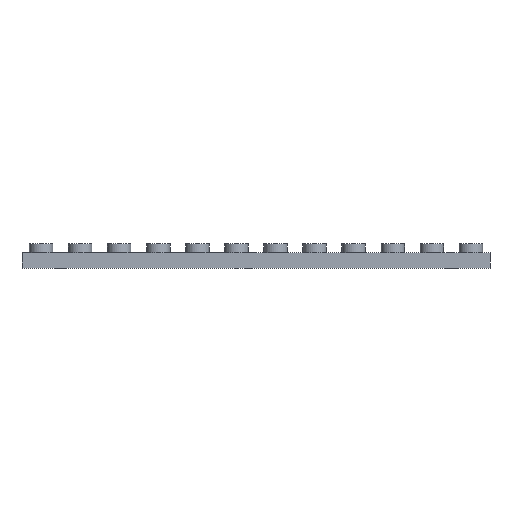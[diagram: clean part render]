
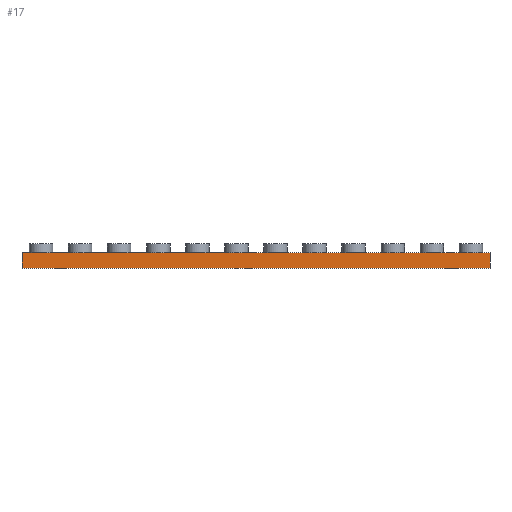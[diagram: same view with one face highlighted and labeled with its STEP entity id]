
A CAD part, left-side view. The second image highlights one B-rep face of the part: STEP entity #17.
In plain terms, the highlighted planar face has unit normal (-1, 0, 0).
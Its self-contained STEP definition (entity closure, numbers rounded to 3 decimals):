
#17 = ADVANCED_FACE('',(#18),#32,.F.);
#18 = FACE_BOUND('',#19,.F.);
#19 = EDGE_LOOP('',(#20,#55,#83,#111));
#20 = ORIENTED_EDGE('',*,*,#21,.F.);
#21 = EDGE_CURVE('',#22,#24,#26,.T.);
#22 = VERTEX_POINT('',#23);
#23 = CARTESIAN_POINT('',(22.1,76.1,26.45));
#24 = VERTEX_POINT('',#25);
#25 = CARTESIAN_POINT('',(22.1,76.1,29.65));
#26 = SURFACE_CURVE('',#27,(#31,#43),.PCURVE_S1.);
#27 = LINE('',#28,#29);
#28 = CARTESIAN_POINT('',(22.1,76.1,26.45));
#29 = VECTOR('',#30,1.);
#30 = DIRECTION('',(0.,0.,1.));
#31 = PCURVE('',#32,#37);
#32 = PLANE('',#33);
#33 = AXIS2_PLACEMENT_3D('',#34,#35,#36);
#34 = CARTESIAN_POINT('',(22.1,76.1,26.45));
#35 = DIRECTION('',(1.,0.,0.));
#36 = DIRECTION('',(0.,0.,1.));
#37 = DEFINITIONAL_REPRESENTATION('',(#38),#42);
#38 = LINE('',#39,#40);
#39 = CARTESIAN_POINT('',(0.,0.));
#40 = VECTOR('',#41,1.);
#41 = DIRECTION('',(1.,0.));
#42 = ( GEOMETRIC_REPRESENTATION_CONTEXT(2) 
PARAMETRIC_REPRESENTATION_CONTEXT() REPRESENTATION_CONTEXT('2D SPACE',''
  ) );
#43 = PCURVE('',#44,#49);
#44 = PLANE('',#45);
#45 = AXIS2_PLACEMENT_3D('',#46,#47,#48);
#46 = CARTESIAN_POINT('',(22.1,76.1,26.45));
#47 = DIRECTION('',(0.,1.,0.));
#48 = DIRECTION('',(0.,0.,1.));
#49 = DEFINITIONAL_REPRESENTATION('',(#50),#54);
#50 = LINE('',#51,#52);
#51 = CARTESIAN_POINT('',(0.,0.));
#52 = VECTOR('',#53,1.);
#53 = DIRECTION('',(1.,0.));
#54 = ( GEOMETRIC_REPRESENTATION_CONTEXT(2) 
PARAMETRIC_REPRESENTATION_CONTEXT() REPRESENTATION_CONTEXT('2D SPACE',''
  ) );
#55 = ORIENTED_EDGE('',*,*,#56,.T.);
#56 = EDGE_CURVE('',#22,#57,#59,.T.);
#57 = VERTEX_POINT('',#58);
#58 = CARTESIAN_POINT('',(22.1,171.9,26.45));
#59 = SURFACE_CURVE('',#60,(#64,#71),.PCURVE_S1.);
#60 = LINE('',#61,#62);
#61 = CARTESIAN_POINT('',(22.1,76.1,26.45));
#62 = VECTOR('',#63,1.);
#63 = DIRECTION('',(0.,1.,0.));
#64 = PCURVE('',#32,#65);
#65 = DEFINITIONAL_REPRESENTATION('',(#66),#70);
#66 = LINE('',#67,#68);
#67 = CARTESIAN_POINT('',(0.,0.));
#68 = VECTOR('',#69,1.);
#69 = DIRECTION('',(0.,-1.));
#70 = ( GEOMETRIC_REPRESENTATION_CONTEXT(2) 
PARAMETRIC_REPRESENTATION_CONTEXT() REPRESENTATION_CONTEXT('2D SPACE',''
  ) );
#71 = PCURVE('',#72,#77);
#72 = PLANE('',#73);
#73 = AXIS2_PLACEMENT_3D('',#74,#75,#76);
#74 = CARTESIAN_POINT('',(22.1,76.1,26.45));
#75 = DIRECTION('',(0.,0.,1.));
#76 = DIRECTION('',(1.,0.,0.));
#77 = DEFINITIONAL_REPRESENTATION('',(#78),#82);
#78 = LINE('',#79,#80);
#79 = CARTESIAN_POINT('',(0.,0.));
#80 = VECTOR('',#81,1.);
#81 = DIRECTION('',(0.,1.));
#82 = ( GEOMETRIC_REPRESENTATION_CONTEXT(2) 
PARAMETRIC_REPRESENTATION_CONTEXT() REPRESENTATION_CONTEXT('2D SPACE',''
  ) );
#83 = ORIENTED_EDGE('',*,*,#84,.T.);
#84 = EDGE_CURVE('',#57,#85,#87,.T.);
#85 = VERTEX_POINT('',#86);
#86 = CARTESIAN_POINT('',(22.1,171.9,29.65));
#87 = SURFACE_CURVE('',#88,(#92,#99),.PCURVE_S1.);
#88 = LINE('',#89,#90);
#89 = CARTESIAN_POINT('',(22.1,171.9,26.45));
#90 = VECTOR('',#91,1.);
#91 = DIRECTION('',(0.,0.,1.));
#92 = PCURVE('',#32,#93);
#93 = DEFINITIONAL_REPRESENTATION('',(#94),#98);
#94 = LINE('',#95,#96);
#95 = CARTESIAN_POINT('',(0.,-95.8));
#96 = VECTOR('',#97,1.);
#97 = DIRECTION('',(1.,0.));
#98 = ( GEOMETRIC_REPRESENTATION_CONTEXT(2) 
PARAMETRIC_REPRESENTATION_CONTEXT() REPRESENTATION_CONTEXT('2D SPACE',''
  ) );
#99 = PCURVE('',#100,#105);
#100 = PLANE('',#101);
#101 = AXIS2_PLACEMENT_3D('',#102,#103,#104);
#102 = CARTESIAN_POINT('',(22.1,171.9,26.45));
#103 = DIRECTION('',(0.,1.,0.));
#104 = DIRECTION('',(0.,0.,1.));
#105 = DEFINITIONAL_REPRESENTATION('',(#106),#110);
#106 = LINE('',#107,#108);
#107 = CARTESIAN_POINT('',(0.,0.));
#108 = VECTOR('',#109,1.);
#109 = DIRECTION('',(1.,0.));
#110 = ( GEOMETRIC_REPRESENTATION_CONTEXT(2) 
PARAMETRIC_REPRESENTATION_CONTEXT() REPRESENTATION_CONTEXT('2D SPACE',''
  ) );
#111 = ORIENTED_EDGE('',*,*,#112,.F.);
#112 = EDGE_CURVE('',#24,#85,#113,.T.);
#113 = SURFACE_CURVE('',#114,(#118,#125),.PCURVE_S1.);
#114 = LINE('',#115,#116);
#115 = CARTESIAN_POINT('',(22.1,76.1,29.65));
#116 = VECTOR('',#117,1.);
#117 = DIRECTION('',(0.,1.,0.));
#118 = PCURVE('',#32,#119);
#119 = DEFINITIONAL_REPRESENTATION('',(#120),#124);
#120 = LINE('',#121,#122);
#121 = CARTESIAN_POINT('',(3.2,0.));
#122 = VECTOR('',#123,1.);
#123 = DIRECTION('',(0.,-1.));
#124 = ( GEOMETRIC_REPRESENTATION_CONTEXT(2) 
PARAMETRIC_REPRESENTATION_CONTEXT() REPRESENTATION_CONTEXT('2D SPACE',''
  ) );
#125 = PCURVE('',#126,#131);
#126 = PLANE('',#127);
#127 = AXIS2_PLACEMENT_3D('',#128,#129,#130);
#128 = CARTESIAN_POINT('',(22.1,76.1,29.65));
#129 = DIRECTION('',(0.,0.,1.));
#130 = DIRECTION('',(1.,0.,0.));
#131 = DEFINITIONAL_REPRESENTATION('',(#132),#136);
#132 = LINE('',#133,#134);
#133 = CARTESIAN_POINT('',(0.,0.));
#134 = VECTOR('',#135,1.);
#135 = DIRECTION('',(0.,1.));
#136 = ( GEOMETRIC_REPRESENTATION_CONTEXT(2) 
PARAMETRIC_REPRESENTATION_CONTEXT() REPRESENTATION_CONTEXT('2D SPACE',''
  ) );
